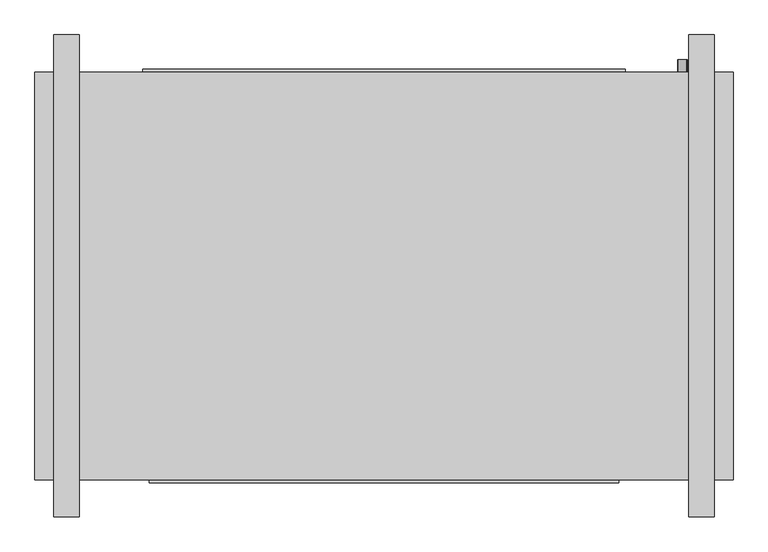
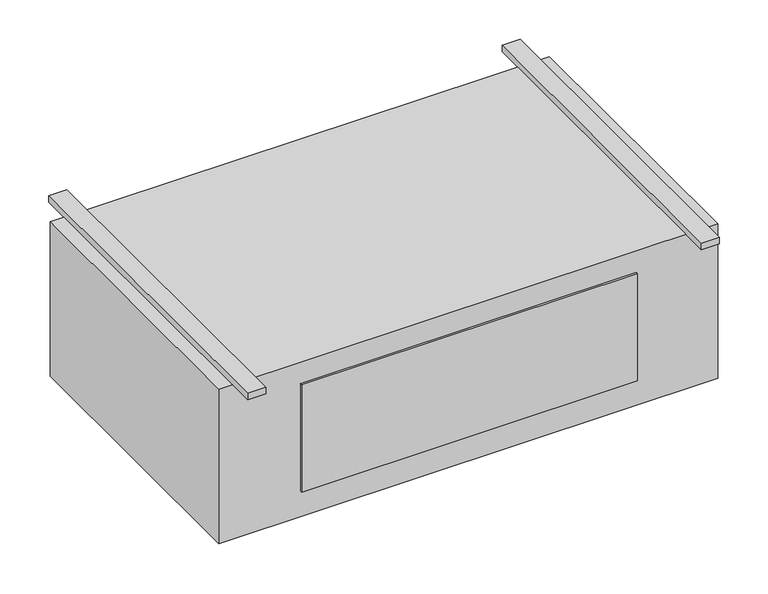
"""IFC4 building model written with IfcOpenShell, lengths in millimetres: proxy geometry, Exposed_High_Capacity_Horizontal_Cabinet_Fan_Coil_Unit_-_42DFA_-_CARRIER_-_4-Pipe_RH_2022 : Size 16 - 277v/60Hz/1Ph - 6/2 Coil."""

from ifc_helpers import new_model, si_unit, point, frame, frame_2d, origin, origin_with_axes, place, context, project, spatial, polyline, circle_curve, trimmed, segment, composite_curve, outline, extrude, source, transform, mapped, element, save


def mechanical_equipment_ffdbdcb3(model_context):
    return source(origin(), model_context, "Body", "SweptSolid", [
        extrude(outline(composite_curve([segment(trimmed(circle_curve(frame_2d((-406.4, 749.3)), 9.525), [point((-406.4, 739.775))], [point((-406.4, 758.825))], False, "CARTESIAN"), True, "CONTINUOUS"), segment(trimmed(circle_curve(frame_2d((-406.4, 749.3)), 9.525), [point((-406.4, 758.825))], [point((-406.4, 739.775))], False, "CARTESIAN"), True, "CONTINUOUS")], self_intersect=False)), frame((0.0, 169.8625, 0.0), z_axis=(0.0, 1.0, 0.0), x_axis=(0.0, 0.0, 1.0)), (0.0, 0.0, 1.0), 25.4),
        extrude(outline(composite_curve([segment(trimmed(circle_curve(frame_2d((-330.2, 749.3)), 7.9375), [point((-330.2, 741.3625))], [point((-330.2, 757.2375))], False, "CARTESIAN"), True, "CONTINUOUS"), segment(trimmed(circle_curve(frame_2d((-330.2, 749.3)), 7.9375), [point((-330.2, 757.2375))], [point((-330.2, 741.3625))], False, "CARTESIAN"), True, "CONTINUOUS")], self_intersect=False)), frame((0.0, 169.8625, 0.0), z_axis=(0.0, 1.0, 0.0), x_axis=(0.0, 0.0, 1.0)), (0.0, 0.0, 1.0), 25.4),
        extrude(outline(composite_curve([segment(trimmed(circle_curve(frame_2d((-254.0, 749.3)), 7.9375), [point((-254.0, 741.3625))], [point((-254.0, 757.2375))], False, "CARTESIAN"), True, "CONTINUOUS"), segment(trimmed(circle_curve(frame_2d((-254.0, 749.3)), 7.9375), [point((-254.0, 757.2375))], [point((-254.0, 741.3625))], False, "CARTESIAN"), True, "CONTINUOUS")], self_intersect=False)), frame((0.0, 169.8625, 0.0), z_axis=(0.0, 1.0, 0.0), x_axis=(0.0, 0.0, 1.0)), (0.0, 0.0, 1.0), 25.4),
        extrude(outline(composite_curve([segment(trimmed(circle_curve(frame_2d((-177.8, 749.3)), 7.9375), [point((-177.8, 741.3625))], [point((-177.8, 757.2375))], False, "CARTESIAN"), True, "CONTINUOUS"), segment(trimmed(circle_curve(frame_2d((-177.8, 749.3)), 7.9375), [point((-177.8, 757.2375))], [point((-177.8, 741.3625))], False, "CARTESIAN"), True, "CONTINUOUS")], self_intersect=False)), frame((0.0, 169.8625, 0.0), z_axis=(0.0, 1.0, 0.0), x_axis=(0.0, 0.0, 1.0)), (0.0, 0.0, 1.0), 25.4),
        extrude(outline(composite_curve([segment(trimmed(circle_curve(frame_2d((-101.6, 749.3)), 7.9375), [point((-101.6, 741.3625))], [point((-101.6, 757.2375))], False, "CARTESIAN"), True, "CONTINUOUS"), segment(trimmed(circle_curve(frame_2d((-101.6, 749.3)), 7.9375), [point((-101.6, 757.2375))], [point((-101.6, 741.3625))], False, "CARTESIAN"), True, "CONTINUOUS")], self_intersect=False)), frame((0.0, 169.8625, 0.0), z_axis=(0.0, 1.0, 0.0), x_axis=(0.0, 0.0, 1.0)), (0.0, 0.0, 1.0), 25.4),
        extrude(outline(polyline([(850.9, 169.8625), (850.9, -646.1125), (-546.1, -646.1125), (-546.1, 169.8625), (850.9, 169.8625)])), frame((0.0, 0.0, -457.2), z_axis=(0.0, 0.0, 1.0), x_axis=(1.0, 0.0, 0.0)), (0.0, 0.0, 1.0), 457.2),
        extrude(outline(polyline([(-330.2, 176.2125), (635.0, 176.2125), (635.0, 169.8625), (-330.2, 169.8625), (-330.2, 176.2125)])), frame((0.0, 0.0, -381.0), z_axis=(0.0, 0.0, 1.0), x_axis=(1.0, 0.0, 0.0)), (0.0, 0.0, 1.0), 355.6),
        extrude(outline(polyline([(-457.2, 244.475), (-457.2, -720.725), (-508.0, -720.725), (-508.0, 244.475), (-457.2, 244.475)])), origin_with_axes(), (0.0, 0.0, 1.0), 19.05),
        extrude(outline(polyline([(812.8, 244.475), (812.8, -720.725), (762.0, -720.725), (762.0, 244.475), (812.8, 244.475)])), origin_with_axes(), (0.0, 0.0, 1.0), 19.05),
        extrude(outline(polyline([(622.3, -652.4625), (-317.5, -652.4625), (-317.5, -646.1125), (622.3, -646.1125), (622.3, -652.4625)])), frame((0.0, 0.0, -381.0), z_axis=(0.0, 0.0, 1.0), x_axis=(1.0, 0.0, 0.0)), (0.0, 0.0, 1.0), 317.5),
    ])


if __name__ == "__main__":
    model = new_model("IFC4")
    model_context = context("Model", 3, world=origin())
    ifc_project = project(units=[si_unit("LENGTHUNIT", "METRE", prefix="MILLI")], contexts=[model_context])
    site = spatial("IfcSite", under=ifc_project)
    building = spatial("IfcBuilding", under=site)
    placement = place(None, origin())
    mechanical_equipment_shape = mechanical_equipment_ffdbdcb3(model_context)
    element("IfcBuildingElementProxy", 1, Name="Exposed_High_Capacity_Horizontal_Cabinet_Fan_Coil_Unit_-_42DFA_-_CARRIER_-_4-Pipe_RH_2022 : Size 16 - 277v/60Hz/1Ph - 6/2 Coil", ObjectType="Exposed_High_Capacity_Horizontal_Cabinet_Fan_Coil_Unit_-_42DFA_-_CARRIER_-_4-Pipe_RH_2022 : Size 16 - 277v/60Hz/1Ph - 6/2 Coil", at=placement, inside=building, context=model_context, shape_type="MappedRepresentation", body=[
        mapped(mechanical_equipment_shape, transform((0.0, 0.0, 0.0), x_axis=(1.0, 0.0, 0.0), y_axis=(0.0, 1.0, 0.0), z_axis=(0.0, 0.0, 1.0))),
    ])
    save(model, "model.ifc")
